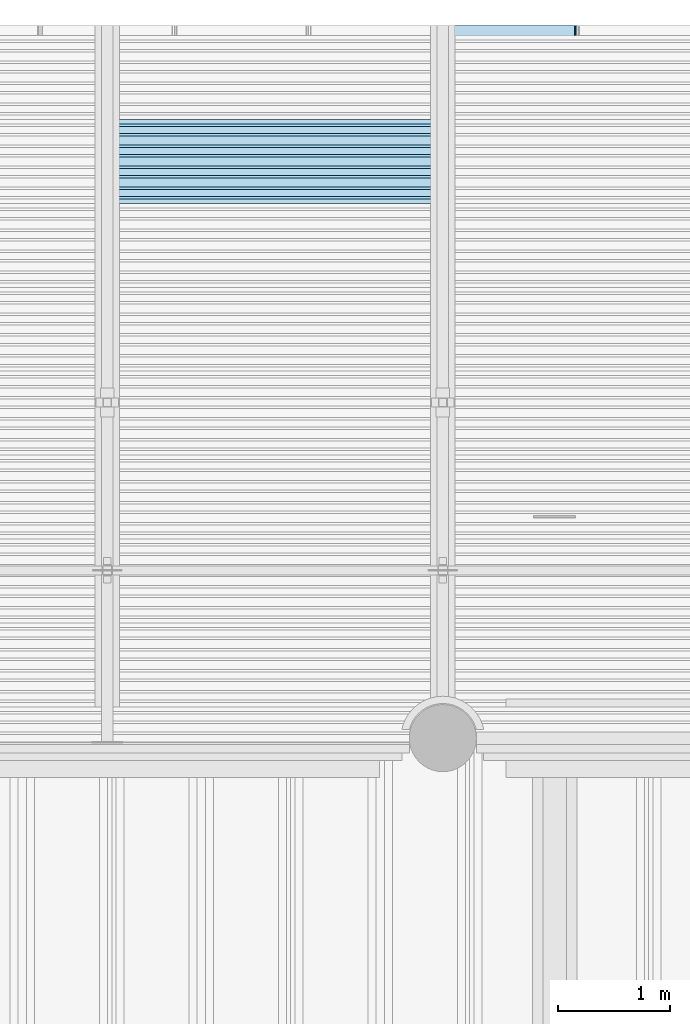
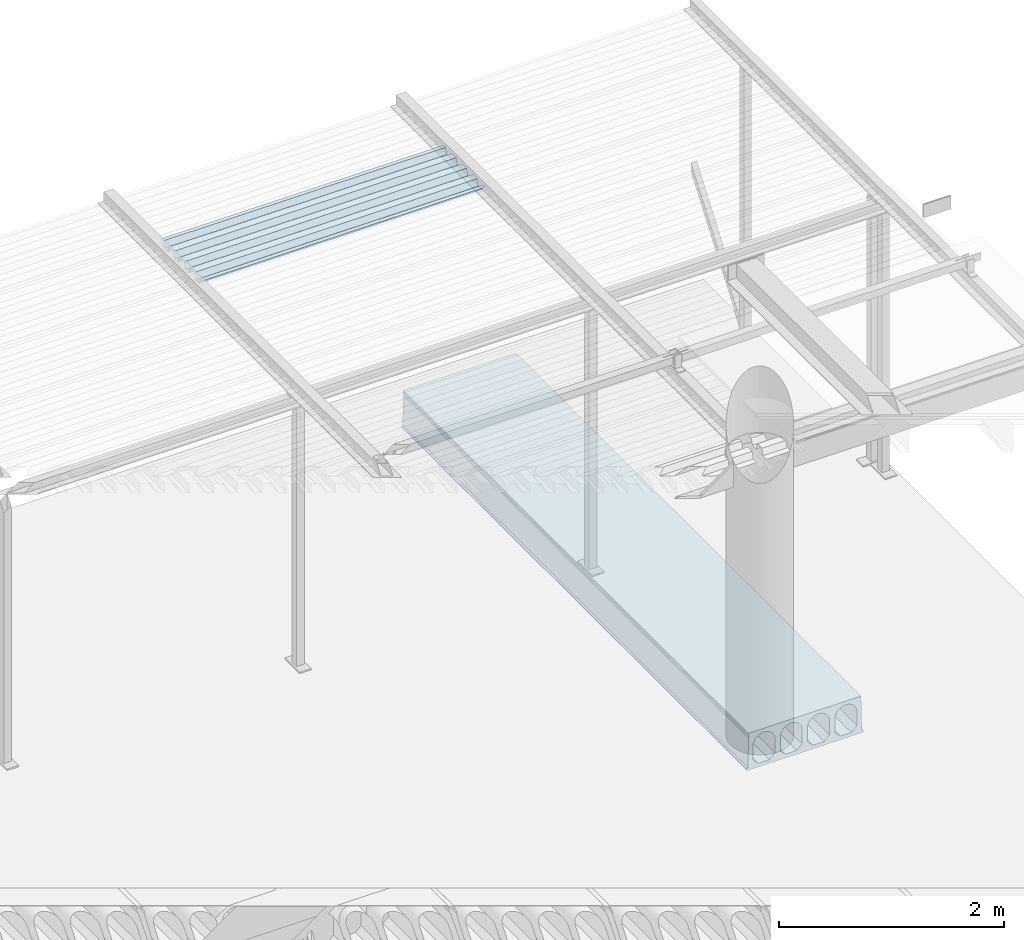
# One storey, part 94 of 98: 2 slabs.
"""IFC2X3 building model written with IfcOpenShell, lengths in millimetres."""

from ifc_helpers import new_model, entity, si_unit, converted_unit, derived_unit, direction, frame, origin_with_axes, place, context, subcontext, project, spatial, faceted_brep, material, type_object, element, save


model = new_model("IFC2X3")

# Units and contexts
model_context = context("Model", 3, precision=0.01, world=frame((0.0, 4.29681676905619e-09, 0.0)), true_north=direction((4.01073788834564e-13, 1.0)))
plan_context = context("Plan", 3, precision=0.01, world=frame((0.0, 4.29681676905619e-09, 0.0)), true_north=direction((4.01073788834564e-13, 1.0)))
body_context = subcontext(model_context, "Body", "Model", "MODEL_VIEW")
ifc_project = project(units=[converted_unit("PLANEANGLEUNIT", "DEGREE", entity("IfcPositiveLengthMeasure", 0.0174532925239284), si_unit("PLANEANGLEUNIT", "RADIAN"), dimensions=[0, 0, 0, 0, 0, 0, 0]), si_unit("AREAUNIT", "SQUARE_METRE"), si_unit("LENGTHUNIT", "METRE", prefix="MILLI"), si_unit("MASSUNIT", "GRAM", prefix="KILO"), si_unit("POWERUNIT", "WATT"), si_unit("PRESSUREUNIT", "PASCAL"), si_unit("FORCEUNIT", "NEWTON", prefix="KILO"), si_unit("ELECTRICCURRENTUNIT", "AMPERE"), si_unit("THERMODYNAMICTEMPERATUREUNIT", "DEGREE_CELSIUS"), si_unit("TIMEUNIT", "SECOND"), si_unit("VOLUMEUNIT", "CUBIC_METRE"), derived_unit("LINEARVELOCITYUNIT", [(si_unit("LENGTHUNIT", "METRE"), 1), (si_unit("TIMEUNIT", "SECOND"), -1)]), derived_unit("VOLUMETRICFLOWRATEUNIT", [(si_unit("VOLUMEUNIT", "CUBIC_METRE"), 1), (si_unit("TIMEUNIT", "SECOND"), -1)]), derived_unit("THERMALTRANSMITTANCEUNIT", [(si_unit("POWERUNIT", "WATT"), 1), (si_unit("THERMODYNAMICTEMPERATUREUNIT", "KELVIN"), -1), (si_unit("AREAUNIT", "SQUARE_METRE"), -1)])], contexts=[model_context, plan_context])

# Site, building, storey
site_placement = place(None, frame((0.0, -4.29681676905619e-09, 0.0), z_axis=(0.0, 0.0, 1.0), x_axis=(1.0, 0.0, 0.0)))
site = spatial("IfcSite", under=ifc_project, at=site_placement, Name="Gardermoen", CompositionType="ELEMENT")
building_placement = place(site_placement, frame((0.0, 4.29681676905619e-09, 0.0), z_axis=(0.0, 0.0, 1.0), x_axis=(1.0, 0.0, 0.0)))
building = spatial("IfcBuilding", under=site, at=building_placement, Name="TS", CompositionType="ELEMENT")
storey_placement = place(building_placement, origin_with_axes())
storey = spatial("IfcBuildingStorey", under=building, at=storey_placement, Name="D", CompositionType="ELEMENT", Elevation=0.0)

# Slabs
slab_type_1 = type_object("IfcSlabType", Name="HD400", PredefinedType="NOTDEFINED")
slab_1_placement = place(storey_placement, frame((529599.999766, 414740.004375, 203600.0), z_axis=(0.0, 0.0, 1.0), x_axis=(0.0, 1.0, 0.0)))
element("IfcSlab", 1, at=slab_1_placement, inside=storey, type_object=slab_type_1, Name="HULLDEKKE", ObjectType="HD400", PredefinedType="FLOOR", context=body_context, shape_type="Brep", body=[
    faceted_brep([(6130.18707840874, 577.5, 175.0), (6130.18707840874, 577.5, 200.0), (0.0, 577.5, 200.0), (0.0, 577.5, 175.0), (6130.18707840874, 570.0, 160.0), (0.0, 570.0, 160.0), (6130.18707840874, 577.5, 145.0), (0.0, 577.5, 145.0), (6130.18707840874, 585.0, -170.0), (0.0, 585.0, -170.0), (6130.18707840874, 600.0, -180.0), (0.0, 600.0, -180.0), (6130.18707840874, 600.0, -190.0), (0.0, 600.0, -190.0), (6130.18707840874, 583.380004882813, -200.0), (0.0, 583.380004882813, -200.0), (6130.18707840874, -583.380004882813, -200.0), (0.0, -583.380004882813, -200.0), (6130.18707840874, -600.0, -190.0), (0.0, -600.0, -190.0), (6130.18707840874, -600.0, -180.0), (0.0, -600.0, -180.0), (6130.18707840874, -585.0, -170.0), (0.0, -585.0, -170.0), (6130.18707840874, -577.5, 145.0), (0.0, -577.5, 145.0), (6130.18707840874, -570.0, 160.0), (0.0, -570.0, 160.0), (6130.18707840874, -577.5, 175.0), (0.0, -577.5, 175.0), (6130.18707840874, -577.5, 200.0), (0.0, -577.5, 200.0), (6130.18707840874, -477.5, -160.0), (6130.18707840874, -532.5, -105.0), (0.0, -532.5, -105.0), (0.0, -477.5, -160.0), (6130.18707840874, -532.5, 47.5), (0.0, -532.5, 47.5), (6130.18707840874, -532.115755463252, 56.7901763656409), (0.0, -532.115755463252, 56.7901763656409), (6130.18707840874, -530.965646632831, 66.0168914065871), (0.0, -530.965646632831, 66.0168914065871), (6130.18707840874, -529.057529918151, 75.1171173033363), (0.0, -529.057529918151, 75.1171173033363), (6130.18707840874, -526.404439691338, 84.028690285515), (0.0, -526.404439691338, 84.028690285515), (6130.18707840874, -523.024499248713, 92.6907352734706), (0.0, -523.024499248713, 92.6907352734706), (6130.18707840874, -518.940797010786, 101.044081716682), (0.0, -518.940797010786, 101.044081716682), (6130.18707840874, -514.181228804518, 109.031667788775), (0.0, -514.181228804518, 109.031667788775), (6130.18707840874, -508.778307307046, 116.598930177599), (0.0, -508.778307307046, 116.598930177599), (6130.18707840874, -502.768939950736, 123.694176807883), (0.0, -502.768939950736, 123.694176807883), (6130.18707840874, -496.194176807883, 130.268939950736), (0.0, -496.194176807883, 130.268939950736), (6130.18707840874, -489.098930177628, 136.278307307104), (0.0, -489.098930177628, 136.278307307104), (6130.18707840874, -481.531667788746, 141.681228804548), (0.0, -481.531667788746, 141.681228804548), (6130.18707840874, -473.544081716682, 146.440797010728), (0.0, -473.544081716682, 146.440797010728), (6130.18707840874, -465.190735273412, 150.524499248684), (0.0, -465.190735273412, 150.524499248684), (6130.18707840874, -456.528690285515, 153.904439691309), (0.0, -456.528690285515, 153.904439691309), (6130.18707840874, -447.617117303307, 156.55752991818), (0.0, -447.617117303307, 156.55752991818), (6130.18707840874, -438.516891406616, 158.465646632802), (0.0, -438.516891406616, 158.465646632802), (6130.18707840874, -429.290176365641, 159.615755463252), (0.0, -429.290176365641, 159.615755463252), (6130.18707840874, -420.0, 160.0), (0.0, -420.0, 160.0), (6130.18707840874, -410.709823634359, 159.615755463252), (0.0, -410.709823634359, 159.615755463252), (6130.18707840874, -401.483108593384, 158.465646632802), (0.0, -401.483108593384, 158.465646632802), (6130.18707840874, -392.382882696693, 156.55752991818), (0.0, -392.382882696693, 156.55752991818), (6130.18707840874, -383.471309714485, 153.904439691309), (0.0, -383.471309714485, 153.904439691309), (6130.18707840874, -374.809264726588, 150.524499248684), (0.0, -374.809264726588, 150.524499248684), (6130.18707840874, -366.455918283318, 146.440797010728), (0.0, -366.455918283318, 146.440797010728), (6130.18707840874, -358.468332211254, 141.681228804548), (0.0, -358.468332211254, 141.681228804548), (6130.18707840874, -350.901069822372, 136.278307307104), (0.0, -350.901069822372, 136.278307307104), (6130.18707840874, -343.805823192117, 130.268939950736), (0.0, -343.805823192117, 130.268939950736), (6130.18707840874, -337.231060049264, 123.694176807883), (0.0, -337.231060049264, 123.694176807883), (6130.18707840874, -331.221692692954, 116.598930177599), (0.0, -331.221692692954, 116.598930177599), (6130.18707840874, -325.818771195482, 109.031667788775), (0.0, -325.818771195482, 109.031667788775), (6130.18707840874, -321.059202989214, 101.044081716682), (0.0, -321.059202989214, 101.044081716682), (6130.18707840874, -316.975500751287, 92.6907352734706), (0.0, -316.975500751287, 92.6907352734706), (6130.18707840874, -313.595560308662, 84.028690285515), (0.0, -313.595560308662, 84.028690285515), (6130.18707840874, -310.942470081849, 75.1171173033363), (0.0, -310.942470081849, 75.1171173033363), (6130.18707840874, -309.034353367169, 66.0168914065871), (0.0, -309.034353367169, 66.0168914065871), (6130.18707840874, -307.884244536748, 56.7901763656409), (0.0, -307.884244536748, 56.7901763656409), (6130.18707840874, -307.5, 47.5), (0.0, -307.5, 47.5), (6130.18707840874, -307.5, -105.0), (0.0, -307.5, -105.0), (6130.18707840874, -362.5, -160.0), (0.0, -362.5, -160.0), (6130.18707840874, -197.5, -160.0), (6130.18707840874, -252.5, -105.0), (0.0, -252.5, -105.0), (0.0, -197.5, -160.0), (6130.18707840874, -252.5, 47.5), (0.0, -252.5, 47.5), (6130.18707840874, -252.115755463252, 56.7901763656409), (0.0, -252.115755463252, 56.7901763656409), (6130.18707840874, -250.965646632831, 66.0168914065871), (0.0, -250.965646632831, 66.0168914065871), (6130.18707840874, -249.057529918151, 75.1171173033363), (0.0, -249.057529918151, 75.1171173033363), (6130.18707840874, -246.404439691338, 84.028690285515), (0.0, -246.404439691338, 84.028690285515), (6130.18707840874, -243.024499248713, 92.6907352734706), (0.0, -243.024499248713, 92.6907352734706), (6130.18707840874, -238.940797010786, 101.044081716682), (0.0, -238.940797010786, 101.044081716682), (6130.18707840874, -234.181228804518, 109.031667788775), (0.0, -234.181228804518, 109.031667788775), (6130.18707840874, -228.778307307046, 116.598930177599), (0.0, -228.778307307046, 116.598930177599), (6130.18707840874, -222.768939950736, 123.694176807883), (0.0, -222.768939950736, 123.694176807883), (6130.18707840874, -216.194176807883, 130.268939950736), (0.0, -216.194176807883, 130.268939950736), (6130.18707840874, -209.098930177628, 136.278307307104), (0.0, -209.098930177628, 136.278307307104), (6130.18707840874, -201.531667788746, 141.681228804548), (0.0, -201.531667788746, 141.681228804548), (6130.18707840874, -193.544081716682, 146.440797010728), (0.0, -193.544081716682, 146.440797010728), (6130.18707840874, -185.190735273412, 150.524499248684), (0.0, -185.190735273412, 150.524499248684), (6130.18707840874, -176.528690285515, 153.904439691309), (0.0, -176.528690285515, 153.904439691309), (6130.18707840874, -167.617117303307, 156.55752991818), (0.0, -167.617117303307, 156.55752991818), (6130.18707840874, -158.516891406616, 158.465646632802), (0.0, -158.516891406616, 158.465646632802), (6130.18707840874, -149.290176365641, 159.615755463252), (0.0, -149.290176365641, 159.615755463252), (6130.18707840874, -140.0, 160.0), (0.0, -140.0, 160.0), (6130.18707840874, -130.709823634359, 159.615755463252), (0.0, -130.709823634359, 159.615755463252), (6130.18707840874, -121.483108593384, 158.465646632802), (0.0, -121.483108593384, 158.465646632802), (6130.18707840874, -112.382882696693, 156.55752991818), (0.0, -112.382882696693, 156.55752991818), (6130.18707840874, -103.471309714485, 153.904439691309), (0.0, -103.471309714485, 153.904439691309), (6130.18707840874, -94.8092647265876, 150.524499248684), (0.0, -94.8092647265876, 150.524499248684), (6130.18707840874, -86.4559182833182, 146.440797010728), (0.0, -86.4559182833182, 146.440797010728), (6130.18707840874, -78.4683322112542, 141.681228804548), (0.0, -78.4683322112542, 141.681228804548), (6130.18707840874, -70.9010698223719, 136.278307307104), (0.0, -70.9010698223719, 136.278307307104), (6130.18707840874, -63.8058231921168, 130.268939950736), (0.0, -63.8058231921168, 130.268939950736), (6130.18707840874, -57.2310600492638, 123.694176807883), (0.0, -57.2310600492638, 123.694176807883), (6130.18707840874, -51.2216926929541, 116.598930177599), (0.0, -51.2216926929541, 116.598930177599), (6130.18707840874, -45.8187711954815, 109.031667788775), (0.0, -45.8187711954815, 109.031667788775), (6130.18707840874, -41.0592029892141, 101.044081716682), (0.0, -41.0592029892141, 101.044081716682), (6130.18707840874, -36.9755007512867, 92.6907352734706), (0.0, -36.9755007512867, 92.6907352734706), (6130.18707840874, -33.5955603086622, 84.028690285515), (0.0, -33.5955603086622, 84.028690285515), (6130.18707840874, -30.942470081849, 75.1171173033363), (0.0, -30.942470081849, 75.1171173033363), (6130.18707840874, -29.0343533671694, 66.0168914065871), (0.0, -29.0343533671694, 66.0168914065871), (6130.18707840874, -27.8842445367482, 56.7901763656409), (0.0, -27.8842445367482, 56.7901763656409), (6130.18707840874, -27.5, 47.5), (0.0, -27.5, 47.5), (6130.18707840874, -27.5, -105.0), (0.0, -27.5, -105.0), (6130.18707840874, -82.5, -160.0), (0.0, -82.5, -160.0), (6130.18707840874, 82.5, -160.0), (6130.18707840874, 27.5, -105.0), (0.0, 27.5, -105.0), (0.0, 82.5, -160.0), (6130.18707840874, 27.5, 47.5), (0.0, 27.5, 47.5), (6130.18707840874, 27.8842445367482, 56.7901763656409), (0.0, 27.8842445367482, 56.7901763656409), (6130.18707840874, 29.0343533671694, 66.0168914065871), (0.0, 29.0343533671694, 66.0168914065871), (6130.18707840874, 30.942470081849, 75.1171173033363), (0.0, 30.942470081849, 75.1171173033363), (6130.18707840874, 33.5955603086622, 84.028690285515), (0.0, 33.5955603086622, 84.028690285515), (6130.18707840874, 36.9755007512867, 92.6907352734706), (0.0, 36.9755007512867, 92.6907352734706), (6130.18707840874, 41.0592029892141, 101.044081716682), (0.0, 41.0592029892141, 101.044081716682), (6130.18707840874, 45.8187711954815, 109.031667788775), (0.0, 45.8187711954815, 109.031667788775), (6130.18707840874, 51.2216926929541, 116.598930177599), (0.0, 51.2216926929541, 116.598930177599), (6130.18707840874, 57.2310600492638, 123.694176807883), (0.0, 57.2310600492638, 123.694176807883), (6130.18707840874, 63.8058231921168, 130.268939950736), (0.0, 63.8058231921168, 130.268939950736), (6130.18707840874, 70.9010698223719, 136.278307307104), (0.0, 70.9010698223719, 136.278307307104), (6130.18707840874, 78.4683322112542, 141.681228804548), (0.0, 78.4683322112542, 141.681228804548), (6130.18707840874, 86.4559182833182, 146.440797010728), (0.0, 86.4559182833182, 146.440797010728), (6130.18707840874, 94.8092647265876, 150.524499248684), (0.0, 94.8092647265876, 150.524499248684), (6130.18707840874, 103.471309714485, 153.904439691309), (0.0, 103.471309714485, 153.904439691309), (6130.18707840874, 112.382882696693, 156.55752991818), (0.0, 112.382882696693, 156.55752991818), (6130.18707840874, 121.483108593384, 158.465646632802), (0.0, 121.483108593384, 158.465646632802), (6130.18707840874, 130.709823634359, 159.615755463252), (0.0, 130.709823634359, 159.615755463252), (6130.18707840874, 140.0, 160.0), (0.0, 140.0, 160.0), (6130.18707840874, 149.290176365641, 159.615755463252), (0.0, 149.290176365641, 159.615755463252), (6130.18707840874, 158.516891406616, 158.465646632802), (0.0, 158.516891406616, 158.465646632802), (6130.18707840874, 167.617117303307, 156.55752991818), (0.0, 167.617117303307, 156.55752991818), (6130.18707840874, 176.528690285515, 153.904439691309), (0.0, 176.528690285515, 153.904439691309), (6130.18707840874, 185.190735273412, 150.524499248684), (0.0, 185.190735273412, 150.524499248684), (6130.18707840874, 193.544081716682, 146.440797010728), (0.0, 193.544081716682, 146.440797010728), (6130.18707840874, 201.531667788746, 141.681228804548), (0.0, 201.531667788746, 141.681228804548), (6130.18707840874, 209.098930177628, 136.278307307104), (0.0, 209.098930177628, 136.278307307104), (6130.18707840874, 216.194176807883, 130.268939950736), (0.0, 216.194176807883, 130.268939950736), (6130.18707840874, 222.768939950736, 123.694176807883), (0.0, 222.768939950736, 123.694176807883), (6130.18707840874, 228.778307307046, 116.598930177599), (0.0, 228.778307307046, 116.598930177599), (6130.18707840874, 234.181228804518, 109.031667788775), (0.0, 234.181228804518, 109.031667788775), (6130.18707840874, 238.940797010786, 101.044081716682), (0.0, 238.940797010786, 101.044081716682), (6130.18707840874, 243.024499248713, 92.6907352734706), (0.0, 243.024499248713, 92.6907352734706), (6130.18707840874, 246.404439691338, 84.028690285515), (0.0, 246.404439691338, 84.028690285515), (6130.18707840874, 249.057529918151, 75.1171173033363), (0.0, 249.057529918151, 75.1171173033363), (6130.18707840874, 250.965646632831, 66.0168914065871), (0.0, 250.965646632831, 66.0168914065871), (6130.18707840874, 252.115755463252, 56.7901763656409), (0.0, 252.115755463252, 56.7901763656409), (6130.18707840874, 252.5, 47.5), (0.0, 252.5, 47.5), (6130.18707840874, 252.5, -105.0), (0.0, 252.5, -105.0), (6130.18707840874, 197.5, -160.0), (0.0, 197.5, -160.0), (0.0, 477.5, -160.0), (0.0, 362.5, -160.0), (0.0, 307.5, -105.0), (0.0, 307.5, 47.5), (0.0, 307.884244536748, 56.7901763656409), (0.0, 309.034353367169, 66.0168914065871), (0.0, 310.942470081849, 75.1171173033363), (0.0, 313.595560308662, 84.028690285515), (0.0, 316.975500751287, 92.6907352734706), (0.0, 321.059202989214, 101.044081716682), (0.0, 325.818771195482, 109.031667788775), (0.0, 331.221692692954, 116.598930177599), (0.0, 337.231060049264, 123.694176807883), (0.0, 343.805823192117, 130.268939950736), (0.0, 350.901069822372, 136.278307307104), (0.0, 358.468332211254, 141.681228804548), (0.0, 366.455918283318, 146.440797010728), (0.0, 374.809264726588, 150.524499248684), (0.0, 383.471309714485, 153.904439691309), (0.0, 392.382882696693, 156.55752991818), (0.0, 401.483108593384, 158.465646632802), (0.0, 410.709823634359, 159.615755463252), (0.0, 420.0, 160.0), (0.0, 429.290176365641, 159.615755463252), (0.0, 438.516891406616, 158.465646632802), (0.0, 447.617117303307, 156.55752991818), (0.0, 456.528690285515, 153.904439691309), (0.0, 465.190735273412, 150.524499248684), (0.0, 473.544081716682, 146.440797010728), (0.0, 481.531667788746, 141.681228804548), (0.0, 489.098930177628, 136.278307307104), (0.0, 496.194176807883, 130.268939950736), (0.0, 502.768939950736, 123.694176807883), (0.0, 508.778307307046, 116.598930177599), (0.0, 514.181228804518, 109.031667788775), (0.0, 518.940797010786, 101.044081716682), (0.0, 523.024499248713, 92.6907352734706), (0.0, 526.404439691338, 84.028690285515), (0.0, 529.057529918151, 75.1171173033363), (0.0, 530.965646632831, 66.0168914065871), (0.0, 532.115755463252, 56.7901763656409), (0.0, 532.5, 47.5), (0.0, 532.5, -105.0), (6130.18707840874, 410.709823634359, 159.615755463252), (6130.18707840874, 420.0, 160.0), (6130.18707840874, 429.290176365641, 159.615755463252), (6130.18707840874, 438.516891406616, 158.465646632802), (6130.18707840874, 447.617117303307, 156.55752991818), (6130.18707840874, 456.528690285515, 153.904439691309), (6130.18707840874, 465.190735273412, 150.524499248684), (6130.18707840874, 473.544081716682, 146.440797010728), (6130.18707840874, 481.531667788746, 141.681228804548), (6130.18707840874, 489.098930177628, 136.278307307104), (6130.18707840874, 496.194176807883, 130.268939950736), (6130.18707840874, 502.768939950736, 123.694176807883), (6130.18707840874, 508.778307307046, 116.598930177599), (6130.18707840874, 514.181228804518, 109.031667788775), (6130.18707840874, 518.940797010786, 101.044081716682), (6130.18707840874, 523.024499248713, 92.6907352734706), (6130.18707840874, 526.404439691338, 84.028690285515), (6130.18707840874, 529.057529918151, 75.1171173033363), (6130.18707840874, 530.965646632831, 66.0168914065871), (6130.18707840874, 532.115755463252, 56.7901763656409), (6130.18707840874, 532.5, 47.5), (6130.18707840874, 532.5, -105.0), (6130.18707840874, 401.483108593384, 158.465646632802), (6130.18707840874, 392.382882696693, 156.55752991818), (6130.18707840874, 383.471309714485, 153.904439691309), (6130.18707840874, 374.809264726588, 150.524499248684), (6130.18707840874, 366.455918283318, 146.440797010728), (6130.18707840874, 358.468332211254, 141.681228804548), (6130.18707840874, 350.901069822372, 136.278307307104), (6130.18707840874, 343.805823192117, 130.268939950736), (6130.18707840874, 337.231060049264, 123.694176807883), (6130.18707840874, 331.221692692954, 116.598930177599), (6130.18707840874, 325.818771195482, 109.031667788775), (6130.18707840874, 321.059202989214, 101.044081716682), (6130.18707840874, 316.975500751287, 92.6907352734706), (6130.18707840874, 313.595560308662, 84.028690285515), (6130.18707840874, 310.942470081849, 75.1171173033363), (6130.18707840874, 309.034353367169, 66.0168914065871), (6130.18707840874, 307.884244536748, 56.7901763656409), (6130.18707840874, 307.5, 47.5), (6130.18707840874, 307.5, -105.0), (6130.18707840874, 362.5, -160.0), (6130.18707840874, 477.5, -160.0)], [[[0, 1, 2, 3]], [[4, 0, 3, 5]], [[6, 4, 5, 7]], [[8, 6, 7, 9]], [[10, 8, 9, 11]], [[12, 10, 11, 13]], [[14, 12, 13, 15]], [[16, 14, 15, 17]], [[18, 16, 17, 19]], [[20, 18, 19, 21]], [[22, 20, 21, 23]], [[24, 22, 23, 25]], [[26, 24, 25, 27]], [[28, 26, 27, 29]], [[30, 28, 29, 31]], [[1, 30, 31, 2]], [[32, 33, 34, 35]], [[33, 36, 37, 34]], [[36, 38, 39, 37]], [[38, 40, 41, 39]], [[40, 42, 43, 41]], [[42, 44, 45, 43]], [[44, 46, 47, 45]], [[46, 48, 49, 47]], [[48, 50, 51, 49]], [[50, 52, 53, 51]], [[52, 54, 55, 53]], [[54, 56, 57, 55]], [[56, 58, 59, 57]], [[58, 60, 61, 59]], [[60, 62, 63, 61]], [[62, 64, 65, 63]], [[64, 66, 67, 65]], [[66, 68, 69, 67]], [[68, 70, 71, 69]], [[70, 72, 73, 71]], [[72, 74, 75, 73]], [[74, 76, 77, 75]], [[76, 78, 79, 77]], [[78, 80, 81, 79]], [[80, 82, 83, 81]], [[82, 84, 85, 83]], [[84, 86, 87, 85]], [[86, 88, 89, 87]], [[88, 90, 91, 89]], [[90, 92, 93, 91]], [[92, 94, 95, 93]], [[94, 96, 97, 95]], [[96, 98, 99, 97]], [[98, 100, 101, 99]], [[100, 102, 103, 101]], [[102, 104, 105, 103]], [[104, 106, 107, 105]], [[106, 108, 109, 107]], [[108, 110, 111, 109]], [[110, 112, 113, 111]], [[112, 114, 115, 113]], [[114, 116, 117, 115]], [[116, 32, 35, 117]], [[118, 119, 120, 121]], [[119, 122, 123, 120]], [[122, 124, 125, 123]], [[124, 126, 127, 125]], [[126, 128, 129, 127]], [[128, 130, 131, 129]], [[130, 132, 133, 131]], [[132, 134, 135, 133]], [[134, 136, 137, 135]], [[136, 138, 139, 137]], [[138, 140, 141, 139]], [[140, 142, 143, 141]], [[142, 144, 145, 143]], [[144, 146, 147, 145]], [[146, 148, 149, 147]], [[148, 150, 151, 149]], [[150, 152, 153, 151]], [[152, 154, 155, 153]], [[154, 156, 157, 155]], [[156, 158, 159, 157]], [[158, 160, 161, 159]], [[160, 162, 163, 161]], [[162, 164, 165, 163]], [[164, 166, 167, 165]], [[166, 168, 169, 167]], [[168, 170, 171, 169]], [[170, 172, 173, 171]], [[172, 174, 175, 173]], [[174, 176, 177, 175]], [[176, 178, 179, 177]], [[178, 180, 181, 179]], [[180, 182, 183, 181]], [[182, 184, 185, 183]], [[184, 186, 187, 185]], [[186, 188, 189, 187]], [[188, 190, 191, 189]], [[190, 192, 193, 191]], [[192, 194, 195, 193]], [[194, 196, 197, 195]], [[196, 198, 199, 197]], [[198, 200, 201, 199]], [[200, 202, 203, 201]], [[202, 118, 121, 203]], [[204, 205, 206, 207]], [[205, 208, 209, 206]], [[208, 210, 211, 209]], [[210, 212, 213, 211]], [[212, 214, 215, 213]], [[214, 216, 217, 215]], [[216, 218, 219, 217]], [[218, 220, 221, 219]], [[220, 222, 223, 221]], [[222, 224, 225, 223]], [[224, 226, 227, 225]], [[226, 228, 229, 227]], [[228, 230, 231, 229]], [[230, 232, 233, 231]], [[232, 234, 235, 233]], [[234, 236, 237, 235]], [[236, 238, 239, 237]], [[238, 240, 241, 239]], [[240, 242, 243, 241]], [[242, 244, 245, 243]], [[244, 246, 247, 245]], [[246, 248, 249, 247]], [[248, 250, 251, 249]], [[250, 252, 253, 251]], [[252, 254, 255, 253]], [[254, 256, 257, 255]], [[256, 258, 259, 257]], [[258, 260, 261, 259]], [[260, 262, 263, 261]], [[262, 264, 265, 263]], [[264, 266, 267, 265]], [[266, 268, 269, 267]], [[268, 270, 271, 269]], [[270, 272, 273, 271]], [[272, 274, 275, 273]], [[274, 276, 277, 275]], [[276, 278, 279, 277]], [[278, 280, 281, 279]], [[280, 282, 283, 281]], [[282, 284, 285, 283]], [[284, 286, 287, 285]], [[286, 288, 289, 287]], [[288, 204, 207, 289]], [[13, 11, 9, 7, 5, 3, 2, 31, 29, 27, 25, 23, 21, 19, 17, 15], [290, 291, 292, 293, 294, 295, 296, 297, 298, 299, 300, 301, 302, 303, 304, 305, 306, 307, 308, 309, 310, 311, 312, 313, 314, 315, 316, 317, 318, 319, 320, 321, 322, 323, 324, 325, 326, 327, 328, 329, 330, 331, 332], [289, 207, 206, 209, 211, 213, 215, 217, 219, 221, 223, 225, 227, 229, 231, 233, 235, 237, 239, 241, 243, 245, 247, 249, 251, 253, 255, 257, 259, 261, 263, 265, 267, 269, 271, 273, 275, 277, 279, 281, 283, 285, 287], [203, 121, 120, 123, 125, 127, 129, 131, 133, 135, 137, 139, 141, 143, 145, 147, 149, 151, 153, 155, 157, 159, 161, 163, 165, 167, 169, 171, 173, 175, 177, 179, 181, 183, 185, 187, 189, 191, 193, 195, 197, 199, 201], [117, 35, 34, 37, 39, 41, 43, 45, 47, 49, 51, 53, 55, 57, 59, 61, 63, 65, 67, 69, 71, 73, 75, 77, 79, 81, 83, 85, 87, 89, 91, 93, 95, 97, 99, 101, 103, 105, 107, 109, 111, 113, 115]], [[333, 334, 312, 311]], [[334, 335, 313, 312]], [[335, 336, 314, 313]], [[336, 337, 315, 314]], [[337, 338, 316, 315]], [[338, 339, 317, 316]], [[339, 340, 318, 317]], [[340, 341, 319, 318]], [[341, 342, 320, 319]], [[342, 343, 321, 320]], [[343, 344, 322, 321]], [[344, 345, 323, 322]], [[345, 346, 324, 323]], [[346, 347, 325, 324]], [[347, 348, 326, 325]], [[348, 349, 327, 326]], [[349, 350, 328, 327]], [[350, 351, 329, 328]], [[351, 352, 330, 329]], [[352, 353, 331, 330]], [[353, 354, 332, 331]], [[355, 333, 311, 310]], [[356, 355, 310, 309]], [[357, 356, 309, 308]], [[358, 357, 308, 307]], [[359, 358, 307, 306]], [[360, 359, 306, 305]], [[361, 360, 305, 304]], [[362, 361, 304, 303]], [[363, 362, 303, 302]], [[364, 363, 302, 301]], [[365, 364, 301, 300]], [[366, 365, 300, 299]], [[367, 366, 299, 298]], [[368, 367, 298, 297]], [[369, 368, 297, 296]], [[370, 369, 296, 295]], [[371, 370, 295, 294]], [[372, 371, 294, 293]], [[373, 372, 293, 292]], [[374, 373, 292, 291]], [[375, 374, 291, 290]], [[354, 375, 290, 332]], [[4, 6, 8, 10, 12, 14, 16, 18, 20, 22, 24, 26, 28, 30, 1, 0], [116, 114, 112, 110, 108, 106, 104, 102, 100, 98, 96, 94, 92, 90, 88, 86, 84, 82, 80, 78, 76, 74, 72, 70, 68, 66, 64, 62, 60, 58, 56, 54, 52, 50, 48, 46, 44, 42, 40, 38, 36, 33, 32], [202, 200, 198, 196, 194, 192, 190, 188, 186, 184, 182, 180, 178, 176, 174, 172, 170, 168, 166, 164, 162, 160, 158, 156, 154, 152, 150, 148, 146, 144, 142, 140, 138, 136, 134, 132, 130, 128, 126, 124, 122, 119, 118], [288, 286, 284, 282, 280, 278, 276, 274, 272, 270, 268, 266, 264, 262, 260, 258, 256, 254, 252, 250, 248, 246, 244, 242, 240, 238, 236, 234, 232, 230, 228, 226, 224, 222, 220, 218, 216, 214, 212, 210, 208, 205, 204], [355, 356, 357, 358, 359, 360, 361, 362, 363, 364, 365, 366, 367, 368, 369, 370, 371, 372, 373, 374, 375, 354, 353, 352, 351, 350, 349, 348, 347, 346, 345, 344, 343, 342, 341, 340, 339, 338, 337, 336, 335, 334, 333]]], orient=[[False], [False], [False], [False], [False], [False], [False], [False], [False], [False], [False], [False], [False], [False], [False], [False], [False], [False], [False], [False], [False], [False], [False], [False], [False], [False], [False], [False], [False], [False], [False], [False], [False], [False], [False], [False], [False], [False], [False], [False], [False], [False], [False], [False], [False], [False], [False], [False], [False], [False], [False], [False], [False], [False], [False], [False], [False], [False], [False], [False], [False], [False], [False], [False], [False], [False], [False], [False], [False], [False], [False], [False], [False], [False], [False], [False], [False], [False], [False], [False], [False], [False], [False], [False], [False], [False], [False], [False], [False], [False], [False], [False], [False], [False], [False], [False], [False], [False], [False], [False], [False], [False], [False], [False], [False], [False], [False], [False], [False], [False], [False], [False], [False], [False], [False], [False], [False], [False], [False], [False], [False], [False], [False], [False], [False], [False], [False], [False], [False], [False], [False], [False], [False], [False], [False], [False], [False], [False], [False], [False], [False], [False], [False], [False], [False], [False, False, False, False, False], [False], [False], [False], [False], [False], [False], [False], [False], [False], [False], [False], [False], [False], [False], [False], [False], [False], [False], [False], [False], [False], [False], [False], [False], [False], [False], [False], [False], [False], [False], [False], [False], [False], [False], [False], [False], [False], [False], [False], [False], [False], [False], [False], [False, False, False, False, False]]),
])
ifc_material = material(Name="STEEL/S355")
slab_type_2 = type_object("IfcSlabType", Name="PLANJA70", PredefinedType="NOTDEFINED")
slab_2_placement = place(storey_placement, frame((528950.000000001, 419654.996695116, 206958.849718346), z_axis=(0.0, 0.0, 1.0), x_axis=(-0.999999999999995, -9.99999902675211e-08, 0.0)))
element("IfcSlab", 2, at=slab_2_placement, inside=storey, type_object=slab_type_2, material=ifc_material, Name="STÅLTAK", ObjectType="PLANJA70", PredefinedType="FLOOR", context=body_context, shape_type="Brep", body=[
    faceted_brep([(0.0, 375.0, 34.1500015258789), (0.0, 335.299987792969, 34.1500015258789), (2900.00079747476, 335.299987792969, 34.1500015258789), (2900.00079747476, 375.0, 34.1500015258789), (0.0, 313.010681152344, -32.1500015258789), (2900.00079747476, 313.010681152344, -32.1500015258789), (0.0, 249.489303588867, -32.1500015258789), (2900.00079747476, 249.489303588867, -32.1500015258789), (0.0, 227.199996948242, 34.1500015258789), (2900.00079747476, 227.199996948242, 34.1500015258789), (0.0, 147.800003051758, 34.1500015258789), (2900.00079747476, 147.800003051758, 34.1500015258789), (0.0, 125.280120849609, -33.1500015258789), (2900.00079747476, 125.280120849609, -33.1500015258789), (0.0, 62.2198791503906, -33.1500015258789), (2900.00079747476, 62.2198791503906, -33.1500015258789), (0.0, 39.7000007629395, 34.1500015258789), (2900.00079747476, 39.7000007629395, 34.1500015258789), (0.0, -39.7000007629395, 34.1500015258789), (2900.00079747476, -39.7000007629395, 34.1500015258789), (0.0, -62.2198791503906, -33.1500015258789), (2900.00079747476, -62.2198791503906, -33.1500015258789), (0.0, -125.280120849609, -33.1500015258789), (2900.00079747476, -125.280120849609, -33.1500015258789), (0.0, -147.800003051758, 34.1500015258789), (2900.00079747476, -147.800003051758, 34.1500015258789), (0.0, -227.199996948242, 34.1500015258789), (2900.00079747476, -227.199996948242, 34.1500015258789), (0.0, -249.719879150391, -33.1500015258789), (2900.00079747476, -249.719879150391, -33.1500015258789), (0.0, -312.781188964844, -33.1500015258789), (2900.00079747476, -312.781188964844, -33.1500015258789), (0.0, -335.070495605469, 33.1500015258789), (2900.00079747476, -335.070495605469, 33.1500015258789), (0.0, -375.0, 33.1500015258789), (2900.00079747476, -375.0, 33.1500015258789), (0.0, -375.0, 32.1500015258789), (2900.00079747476, -375.0, 32.1500015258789), (0.0, -335.789306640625, 32.1500015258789), (2900.00079747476, -335.789306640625, 32.1500015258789), (0.0, -313.5, -34.1500015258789), (2900.00079747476, -313.5, -34.1500015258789), (0.0, -249.0, -34.1500015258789), (2900.00079747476, -249.0, -34.1500015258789), (0.0, -226.480117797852, 33.1500015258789), (2900.00079747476, -226.480117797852, 33.1500015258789), (0.0, -148.519882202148, 33.1500015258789), (2900.00079747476, -148.519882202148, 33.1500015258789), (0.0, -126.0, -34.1500015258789), (2900.00079747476, -126.0, -34.1500015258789), (0.0, -61.5, -34.1500015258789), (2900.00079747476, -61.5, -34.1500015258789), (0.0, -38.9801177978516, 33.1500015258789), (2900.00079747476, -38.9801177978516, 33.1500015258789), (0.0, 38.9801177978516, 33.1500015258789), (2900.00079747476, 38.9801177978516, 33.1500015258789), (0.0, 61.5, -34.1500015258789), (2900.00079747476, 61.5, -34.1500015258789), (0.0, 126.0, -34.1500015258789), (2900.00079747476, 126.0, -34.1500015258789), (0.0, 148.519882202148, 33.1500015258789), (2900.00079747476, 148.519882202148, 33.1500015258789), (0.0, 226.481185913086, 33.1500015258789), (2900.00079747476, 226.481185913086, 33.1500015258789), (0.0, 248.770492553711, -33.1500015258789), (2900.00079747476, 248.770492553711, -33.1500015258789), (0.0, 313.7294921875, -33.1500015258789), (2900.00079747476, 313.7294921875, -33.1500015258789), (0.0, 336.018798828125, 33.1500015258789), (2900.00079747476, 336.018798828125, 33.1500015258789), (0.0, 375.0, 33.1500015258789), (2900.00079747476, 375.0, 33.1500015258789)], [[[0, 1, 2, 3]], [[1, 4, 5, 2]], [[4, 6, 7, 5]], [[6, 8, 9, 7]], [[8, 10, 11, 9]], [[10, 12, 13, 11]], [[12, 14, 15, 13]], [[14, 16, 17, 15]], [[16, 18, 19, 17]], [[18, 20, 21, 19]], [[22, 23, 21, 20]], [[22, 24, 25, 23]], [[24, 26, 27, 25]], [[26, 28, 29, 27]], [[28, 30, 31, 29]], [[30, 32, 33, 31]], [[32, 34, 35, 33]], [[34, 36, 37, 35]], [[36, 38, 39, 37]], [[38, 40, 41, 39]], [[40, 42, 43, 41]], [[42, 44, 45, 43]], [[44, 46, 47, 45]], [[46, 48, 49, 47]], [[48, 50, 51, 49]], [[50, 52, 53, 51]], [[52, 54, 55, 53]], [[54, 56, 57, 55]], [[56, 58, 59, 57]], [[58, 60, 61, 59]], [[60, 62, 63, 61]], [[62, 64, 65, 63]], [[64, 66, 67, 65]], [[66, 68, 69, 67]], [[68, 70, 71, 69]], [[70, 0, 3, 71]], [[5, 7, 9, 11, 13, 15, 17, 19, 21, 23, 25, 27, 29, 31, 33, 35, 37, 39, 41, 43, 45, 47, 49, 51, 53, 55, 57, 59, 61, 63, 65, 67, 69, 71, 3, 2]], [[70, 68, 66, 64, 62, 60, 58, 56, 54, 52, 50, 48, 46, 44, 42, 40, 38, 36, 34, 32, 30, 28, 26, 24, 22, 20, 18, 16, 14, 12, 10, 8, 6, 4, 1, 0]]]),
])

save(model, "model.ifc")
